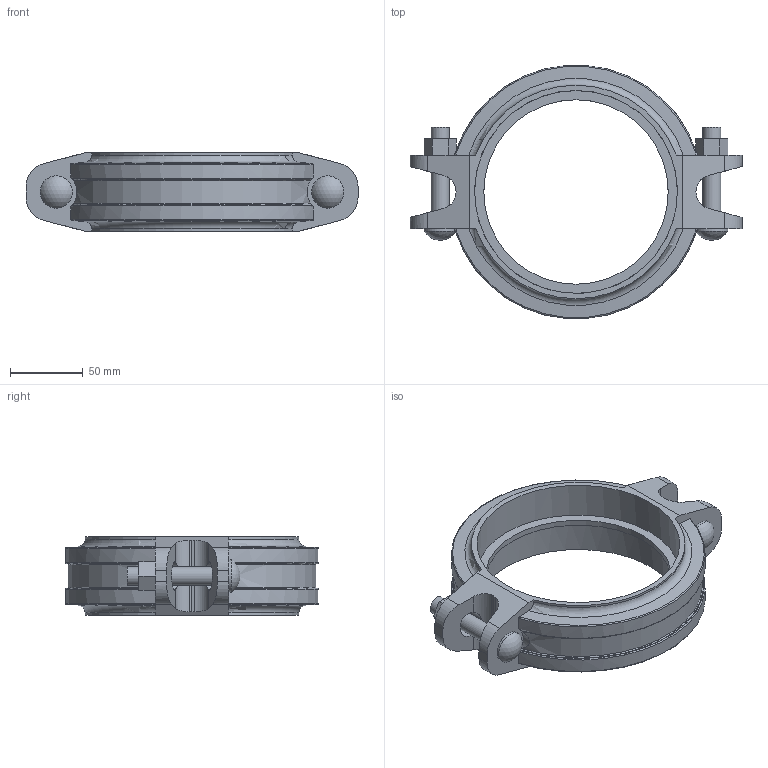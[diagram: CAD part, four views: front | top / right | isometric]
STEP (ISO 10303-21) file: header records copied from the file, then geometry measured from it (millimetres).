
FILE_DESCRIPTION(/* description */ ('VIC STYLE 005H FIRELOCK RIGID COUPLING','CAx-IF Rec.Pracs.---Representation and Presentation of Product Manufacturing Information (PMI)---4.0---2014-10-13'),/* implementation_level */ '2;1');
FILE_NAME(/* name */ 'C:\Users\Vjadhav\Desktop\CAD for Inventor\1\Coupling bolt thickness\005H\STEP\Victaulic_FP-FireLock_Coupling Rigid_Style 005H (OGS)\Victaulic_FP-FireLock_Coupling Rigid_Style 005H (OGS)_05.0 (139.7) (125).stp',/* time_stamp */ '2022-03-28T11:25:06+06:00',/* author */ ('jheald'),/* organization */ ('Victaulic'),/* preprocessor_version */ 'ST-DEVELOPER v17.2',/* originating_system */ 'Autodesk Inventor 2019',/* authorisation */ '');
FILE_SCHEMA (('AP242_MANAGED_MODEL_BASED_3D_ENGINEERING_MIM_LF { 1 0 10303 442 1 1 4 }'));
Length unit declared in the file: inch
Products named in the file (1): 005H-05.0 (139.7)
Bounding box: 228.6 x 174.16 x 54.1 mm (x, y, z)
Volume: 447073.2 mm3; surface area: 92310.3 mm2
Topology: 1 solids, 1 shells, 129 faces, 381 edges, 258 vertices
Faces by surface type: plane 56, cylinder 51, torus 16, cone 4, sphere 2
Full cylindrical faces by diameter (mm): 12.7 x4, 22.225 x2, 127 x1, 139.7 x2
Entity records: 5164 total; most frequent: CARTESIAN_POINT 1454, ORIENTED_EDGE 762, DIRECTION 717, EDGE_CURVE 381, AXIS2_PLACEMENT_3D 269, VERTEX_POINT 258, LINE 179, VECTOR 179
